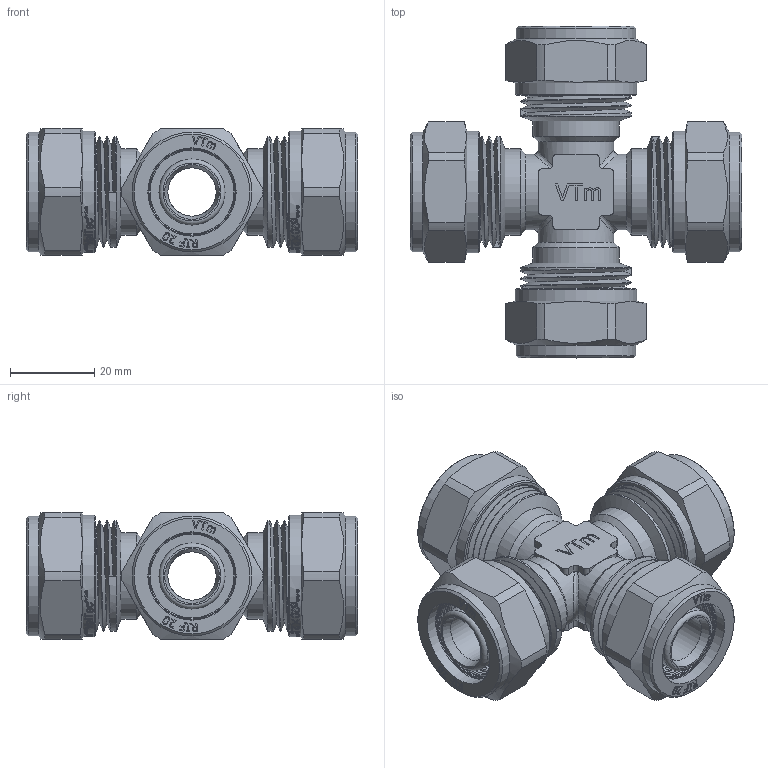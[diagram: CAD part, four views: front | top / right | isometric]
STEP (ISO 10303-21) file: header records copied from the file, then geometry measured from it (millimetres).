
FILE_DESCRIPTION(/* description */ (''),/* implementation_level */ '2;1');
FILE_NAME(/* name */ 'F:\Артём\00000\Работа удаленка\Обжимные фитинги\VTm.341.N.202020.stp',/* time_stamp */ '2020-08-03T15:48:15+03:00',/* author */ ('almis'),/* organization */ (''),/* preprocessor_version */ 'ST-DEVELOPER v18',/* originating_system */ 'Autodesk Inventor 2020',/* authorisation */ '');
FILE_SCHEMA (('AUTOMOTIVE_DESIGN { 1 0 10303 214 3 1 1 }'));
Products named in the file (1): VTm.341.N.202020
Bounding box: 78.96 x 78.96 x 30 mm (x, y, z)
Volume: 47053 mm3; surface area: 33504.6 mm2
Topology: 1 solids, 1 shells, 2584 faces, 7231 edges, 4869 vertices
Faces by surface type: bspline 1404, plane 728, cylinder 316, torus 92, cone 44
Full cylindrical faces by diameter (mm): 11.5 x4, 13.4 x8, 15.75 x16, 18 x4, 19.986 x16, 20.2 x4, 20.5 x4, 20.728 x20, 21 x4, 22.8 x12, 26.4 x12, 28.5 x4, 29 x4
Entity records: 108184 total; most frequent: CARTESIAN_POINT 50330, ORIENTED_EDGE 14462, DIRECTION 7816, EDGE_CURVE 7231, VERTEX_POINT 4869, LINE 3104, VECTOR 3104, B_SPLINE_CURVE_WITH_KNOTS 2904
